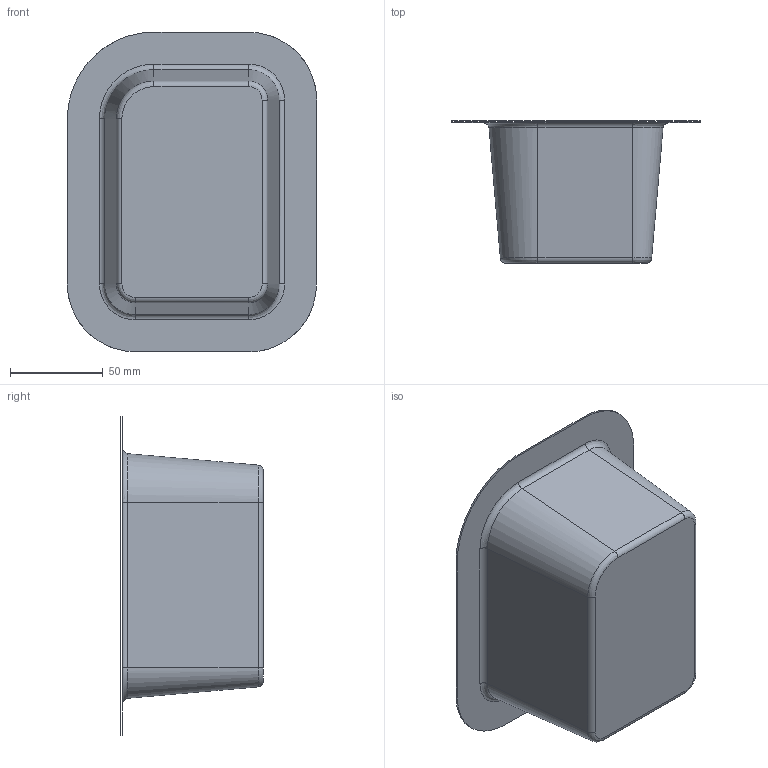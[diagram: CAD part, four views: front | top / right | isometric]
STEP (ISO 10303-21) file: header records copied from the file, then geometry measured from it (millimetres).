
FILE_DESCRIPTION(('CATIA V5 STEP Exchange'),'2;1');
FILE_NAME('C:\_Andres\UNIVERSIDAD\IQS\ASIGNATURAS\DAO\Controles\1617\c3\2inicio\Marra-Lopez_Llovet_control3_v19.stp','2017-02-17T14:22:08+00:00',('none'),('none'),'CATIA Version 5-6 Release 2014 SP1 HF18','CATIA V5 STEP AP203','none');
FILE_SCHEMA(('CONFIG_CONTROL_DESIGN'));
Length unit declared in the file: millimetre
Products named in the file (1): Marra-Lopez_Llovet_control3_v19
Bounding box: 134.25 x 76.71 x 172.25 mm (x, y, z)
Surface area: 70456.4 mm2 (no closed solid volume)
Topology: 0 solids, 2 shells, 27 faces, 80 edges, 57 vertices
Faces by surface type: bspline 16, cylinder 8, plane 3
Entity records: 1925 total; most frequent: CARTESIAN_POINT 1329, ORIENTED_EDGE 128, EDGE_CURVE 72, B_SPLINE_CURVE_WITH_KNOTS 54, DIRECTION 50, VERTEX_POINT 48, EDGE_LOOP 28, ADVANCED_FACE 27
